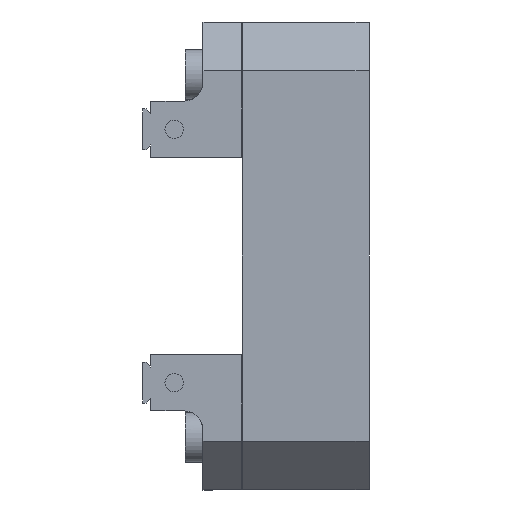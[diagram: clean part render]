
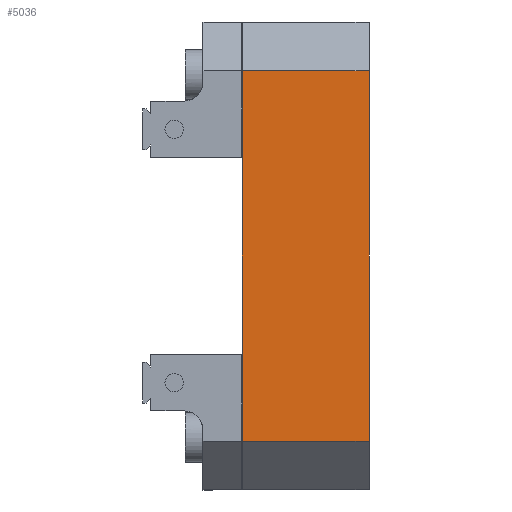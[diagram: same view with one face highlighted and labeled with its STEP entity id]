
A CAD part, left-side view. The second image highlights one B-rep face of the part: STEP entity #5036.
In plain terms, the highlighted planar face has unit normal (-1, 0, 0).
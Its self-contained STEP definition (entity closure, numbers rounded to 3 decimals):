
#79 = CARTESIAN_POINT ( 'NONE',  ( 0., 41.275, 15.875 ) ) ;
#80 = DIRECTION ( 'NONE',  ( 0., 0., -1. ) ) ;
#376 = LINE ( 'NONE', #5078, #4854 ) ;
#418 = VECTOR ( 'NONE', #2134, 1000. ) ;
#444 = EDGE_LOOP ( 'NONE', ( #5632, #2072, #3988, #1304 ) ) ;
#591 = LINE ( 'NONE', #2932, #5392 ) ;
#750 = DIRECTION ( 'NONE',  ( 0., 1., 0. ) ) ;
#774 = CARTESIAN_POINT ( 'NONE',  ( 0., 41.275, 136.525 ) ) ;
#866 = AXIS2_PLACEMENT_3D ( 'NONE', #2562, #5016, #2488 ) ;
#894 = CARTESIAN_POINT ( 'NONE',  ( 0., 0., 136.525 ) ) ;
#1077 = CARTESIAN_POINT ( 'NONE',  ( 0., 0., 15.875 ) ) ;
#1220 = EDGE_CURVE ( 'NONE', #4580, #4621, #2445, .T. ) ;
#1304 = ORIENTED_EDGE ( 'NONE', *, *, #3713, .F. ) ;
#1771 = EDGE_CURVE ( 'NONE', #4580, #3032, #3680, .T. ) ;
#2072 = ORIENTED_EDGE ( 'NONE', *, *, #1771, .T. ) ;
#2134 = DIRECTION ( 'NONE',  ( 0., 0., -1. ) ) ;
#2445 = LINE ( 'NONE', #6086, #418 ) ;
#2488 = DIRECTION ( 'NONE',  ( 0., 0., -1. ) ) ;
#2562 = CARTESIAN_POINT ( 'NONE',  ( 0., 0., 152.4 ) ) ;
#2752 = EDGE_CURVE ( 'NONE', #3032, #4107, #376, .T. ) ;
#2932 = CARTESIAN_POINT ( 'NONE',  ( 0., 0., 15.875 ) ) ;
#3032 = VERTEX_POINT ( 'NONE', #774 ) ;
#3270 = CARTESIAN_POINT ( 'NONE',  ( 0., 0., 136.525 ) ) ;
#3680 = LINE ( 'NONE', #3270, #4087 ) ;
#3713 = EDGE_CURVE ( 'NONE', #4621, #4107, #591, .T. ) ;
#3988 = ORIENTED_EDGE ( 'NONE', *, *, #2752, .T. ) ;
#4087 = VECTOR ( 'NONE', #750, 1000. ) ;
#4107 = VERTEX_POINT ( 'NONE', #79 ) ;
#4371 = FACE_OUTER_BOUND ( 'NONE', #444, .T. ) ;
#4477 = PLANE ( 'NONE',  #866 ) ;
#4580 = VERTEX_POINT ( 'NONE', #894 ) ;
#4621 = VERTEX_POINT ( 'NONE', #1077 ) ;
#4854 = VECTOR ( 'NONE', #80, 1000. ) ;
#5016 = DIRECTION ( 'NONE',  ( 1., 0., 0. ) ) ;
#5036 = ADVANCED_FACE ( 'NONE', ( #4371 ), #4477, .F. ) ;
#5078 = CARTESIAN_POINT ( 'NONE',  ( 0., 41.275, 152.4 ) ) ;
#5392 = VECTOR ( 'NONE', #5497, 1000. ) ;
#5497 = DIRECTION ( 'NONE',  ( 0., 1., 0. ) ) ;
#5632 = ORIENTED_EDGE ( 'NONE', *, *, #1220, .F. ) ;
#6086 = CARTESIAN_POINT ( 'NONE',  ( 0., 0., 152.4 ) ) ;
